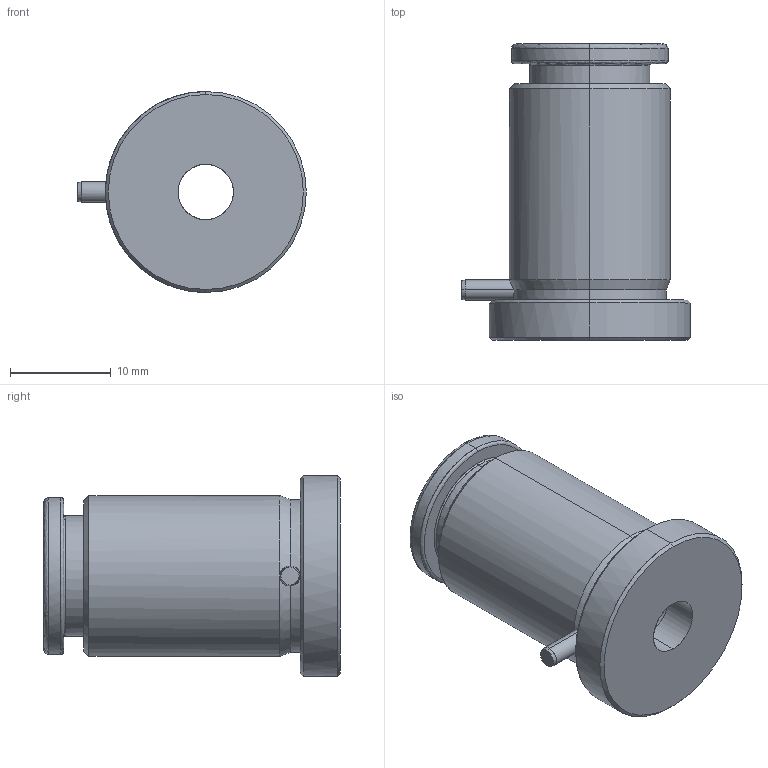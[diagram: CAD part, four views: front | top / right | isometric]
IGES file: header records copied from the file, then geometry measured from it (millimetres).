
Start section: START RECORD GO HERE.
Global section: file name: ba081620.igs; native system: DASSAULT SYSTEMES CATIA V5 R20 - www.3ds.com; preprocessor: CATIA Version 5 Release 20 ; author: Utente; organization: NB04-ASUS; date: 20201103.203638; units: millimetre
Bounding box: 22.75 x 29.5 x 20 mm (x, y, z)
Surface area: 5107.5 mm2 (no closed solid volume)
Topology: 0 solids, 0 shells, 279 faces, 1328 edges, 1262 vertices
Faces by surface type: revolution 212, bspline 51, plane 16
